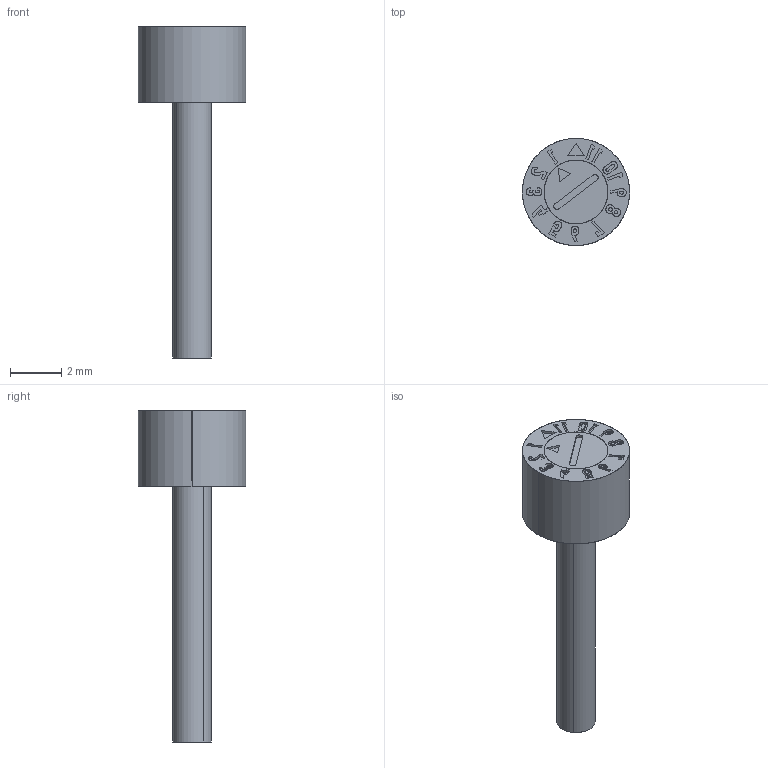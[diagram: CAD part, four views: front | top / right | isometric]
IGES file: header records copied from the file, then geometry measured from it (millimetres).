
Start section: SolidWorks IGES file using analytic representation for surfaces
Global section: file name: C:\temp\GO\Files\DMDP06.igs; native system: SolidWorks 2023; preprocessor: SolidWorks 2023; author: andrew.sweeney; date: 260501.195841; units: inch
Bounding box: 4.2 x 4.2 x 13 mm (x, y, z)
Surface area: 165 mm2 (no closed solid volume)
Topology: 0 solids, 0 shells, 227 faces, 1734 edges, 1734 vertices
Faces by surface type: bspline 214, revolution 13
